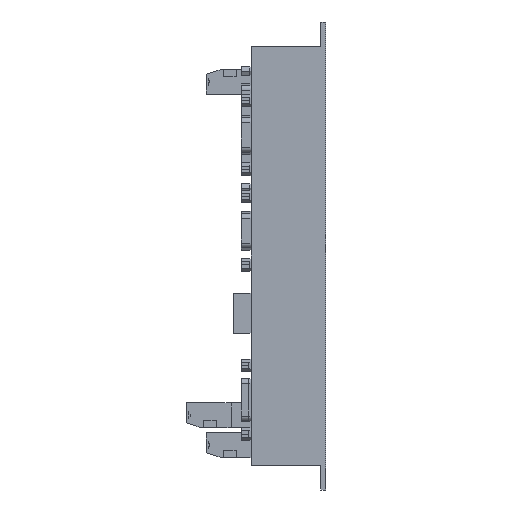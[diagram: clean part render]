
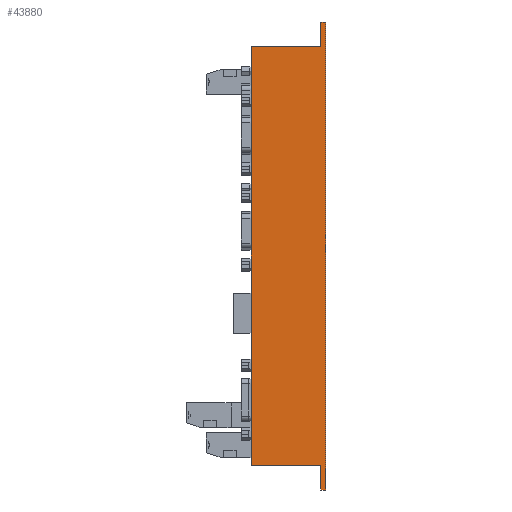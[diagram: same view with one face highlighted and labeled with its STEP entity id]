
A CAD part, left-side view. The second image highlights one B-rep face of the part: STEP entity #43880.
In plain terms, the highlighted planar face has unit normal (-1, 0, 0).
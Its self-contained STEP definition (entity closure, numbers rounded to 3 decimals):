
#280 = ORIENTED_EDGE ( 'NONE', *, *, #33915, .F. ) ;
#2103 = LINE ( 'NONE', #55730, #59538 ) ;
#2278 = EDGE_LOOP ( 'NONE', ( #41865, #280, #63118, #18973, #51602, #24711, #4323, #13211 ) ) ;
#4065 = LINE ( 'NONE', #6311, #43902 ) ;
#4323 = ORIENTED_EDGE ( 'NONE', *, *, #9195, .F. ) ;
#4608 = LINE ( 'NONE', #83364, #24478 ) ;
#6311 = CARTESIAN_POINT ( 'NONE',  ( 0., 30., -102.297 ) ) ;
#7732 = LINE ( 'NONE', #24433, #85137 ) ;
#8986 = VECTOR ( 'NONE', #34702, 1000. ) ;
#9195 = EDGE_CURVE ( 'NONE', #82766, #16263, #2103, .T. ) ;
#11954 = LINE ( 'NONE', #26454, #31865 ) ;
#12936 = VERTEX_POINT ( 'NONE', #91443 ) ;
#13211 = ORIENTED_EDGE ( 'NONE', *, *, #84324, .F. ) ;
#16263 = VERTEX_POINT ( 'NONE', #58236 ) ;
#17852 = EDGE_CURVE ( 'NONE', #12936, #36217, #7732, .T. ) ;
#18973 = ORIENTED_EDGE ( 'NONE', *, *, #35289, .F. ) ;
#19689 = CARTESIAN_POINT ( 'NONE',  ( 0., 0., 75.703 ) ) ;
#24433 = CARTESIAN_POINT ( 'NONE',  ( 0., 2., -102.297 ) ) ;
#24478 = VECTOR ( 'NONE', #61334, 1000. ) ;
#24711 = ORIENTED_EDGE ( 'NONE', *, *, #64269, .F. ) ;
#26427 = CARTESIAN_POINT ( 'NONE',  ( 0., 2., 75.703 ) ) ;
#26454 = CARTESIAN_POINT ( 'NONE',  ( 0., 30., 65.703 ) ) ;
#28879 = DIRECTION ( 'NONE',  ( 0., 0., 1. ) ) ;
#28936 = LINE ( 'NONE', #19689, #8986 ) ;
#29517 = LINE ( 'NONE', #59113, #31245 ) ;
#30194 = EDGE_CURVE ( 'NONE', #41767, #91657, #37427, .T. ) ;
#31245 = VECTOR ( 'NONE', #66644, 1000. ) ;
#31354 = FACE_OUTER_BOUND ( 'NONE', #2278, .T. ) ;
#31865 = VECTOR ( 'NONE', #49728, 1000. ) ;
#33915 = EDGE_CURVE ( 'NONE', #35558, #41767, #4608, .T. ) ;
#34702 = DIRECTION ( 'NONE',  ( 0., 0., -1. ) ) ;
#35289 = EDGE_CURVE ( 'NONE', #36217, #88406, #4065, .T. ) ;
#35558 = VERTEX_POINT ( 'NONE', #71884 ) ;
#36217 = VERTEX_POINT ( 'NONE', #42899 ) ;
#37427 = LINE ( 'NONE', #26427, #67927 ) ;
#41068 = AXIS2_PLACEMENT_3D ( 'NONE', #79625, #42198, #94607 ) ;
#41542 = PLANE ( 'NONE',  #41068 ) ;
#41767 = VERTEX_POINT ( 'NONE', #73875 ) ;
#41865 = ORIENTED_EDGE ( 'NONE', *, *, #30194, .F. ) ;
#42198 = DIRECTION ( 'NONE',  ( 1., 0., 0. ) ) ;
#42538 = EDGE_CURVE ( 'NONE', #88406, #35558, #11954, .T. ) ;
#42899 = CARTESIAN_POINT ( 'NONE',  ( 0., 30., -102.297 ) ) ;
#43880 = ADVANCED_FACE ( 'NONE', ( #31354 ), #41542, .F. ) ;
#43902 = VECTOR ( 'NONE', #28879, 1000. ) ;
#49728 = DIRECTION ( 'NONE',  ( 0., -1., 0. ) ) ;
#51602 = ORIENTED_EDGE ( 'NONE', *, *, #17852, .F. ) ;
#55730 = CARTESIAN_POINT ( 'NONE',  ( 0., 0., -112.297 ) ) ;
#58236 = CARTESIAN_POINT ( 'NONE',  ( 0., 2., -112.297 ) ) ;
#59113 = CARTESIAN_POINT ( 'NONE',  ( 0., 2., -112.297 ) ) ;
#59538 = VECTOR ( 'NONE', #63318, 1000. ) ;
#61334 = DIRECTION ( 'NONE',  ( 0., 0., 1. ) ) ;
#63118 = ORIENTED_EDGE ( 'NONE', *, *, #42538, .F. ) ;
#63318 = DIRECTION ( 'NONE',  ( 0., 1., 0. ) ) ;
#64269 = EDGE_CURVE ( 'NONE', #16263, #12936, #29517, .T. ) ;
#66644 = DIRECTION ( 'NONE',  ( 0., 0., 1. ) ) ;
#67927 = VECTOR ( 'NONE', #71707, 1000. ) ;
#69688 = CARTESIAN_POINT ( 'NONE',  ( 0., 0., 75.703 ) ) ;
#71707 = DIRECTION ( 'NONE',  ( 0., -1., 0. ) ) ;
#71884 = CARTESIAN_POINT ( 'NONE',  ( 0., 2., 65.703 ) ) ;
#73875 = CARTESIAN_POINT ( 'NONE',  ( 0., 2., 75.703 ) ) ;
#74133 = CARTESIAN_POINT ( 'NONE',  ( 0., 0., -112.297 ) ) ;
#76897 = DIRECTION ( 'NONE',  ( 0., 1., 0. ) ) ;
#79625 = CARTESIAN_POINT ( 'NONE',  ( 0., 0., 0. ) ) ;
#80893 = CARTESIAN_POINT ( 'NONE',  ( 0., 30., 65.703 ) ) ;
#82766 = VERTEX_POINT ( 'NONE', #74133 ) ;
#83364 = CARTESIAN_POINT ( 'NONE',  ( 0., 2., 65.703 ) ) ;
#84324 = EDGE_CURVE ( 'NONE', #91657, #82766, #28936, .T. ) ;
#85137 = VECTOR ( 'NONE', #76897, 1000. ) ;
#88406 = VERTEX_POINT ( 'NONE', #80893 ) ;
#91443 = CARTESIAN_POINT ( 'NONE',  ( 0., 2., -102.297 ) ) ;
#91657 = VERTEX_POINT ( 'NONE', #69688 ) ;
#94607 = DIRECTION ( 'NONE',  ( 0., 0., -1. ) ) ;
